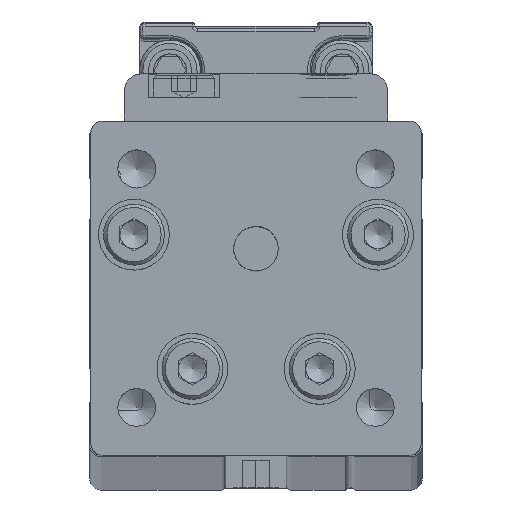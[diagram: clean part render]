
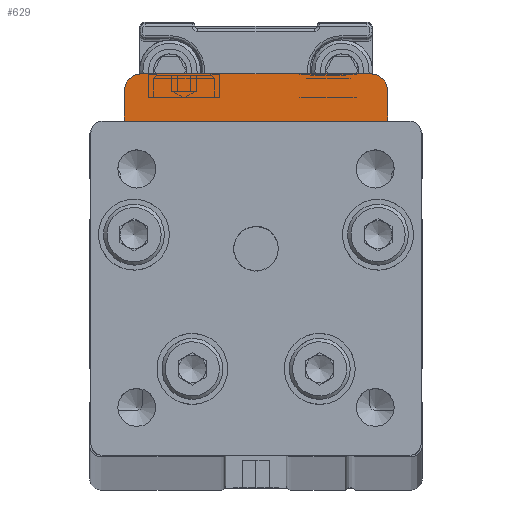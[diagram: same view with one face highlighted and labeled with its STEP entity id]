
A CAD part, top view. The second image highlights one B-rep face of the part: STEP entity #629.
In plain terms, the highlighted planar face has unit normal (0, 0, 1).
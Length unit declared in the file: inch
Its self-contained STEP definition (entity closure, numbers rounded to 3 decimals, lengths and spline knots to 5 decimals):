
#629 = ADVANCED_FACE ( 'NONE', ( #5536 ), #16672, .T. ) ;
#725 = CARTESIAN_POINT ( 'NONE',  ( 0.46752, 0.45295, 0.54126 ) ) ;
#764 = ORIENTED_EDGE ( 'NONE', *, *, #5808, .T. ) ;
#1127 = EDGE_CURVE ( 'NONE', #4530, #2495, #20693, .T. ) ;
#1385 = CARTESIAN_POINT ( 'NONE',  ( -0.46752, 0.45295, 0.54126 ) ) ;
#1896 = CARTESIAN_POINT ( 'NONE',  ( 0.46752, 0.45295, 0.54126 ) ) ;
#2011 = DIRECTION ( 'NONE',  ( 0., 0., 1. ) ) ;
#2109 = DIRECTION ( 'NONE',  ( 1., 0., 0. ) ) ;
#2378 = EDGE_CURVE ( 'NONE', #20728, #14455, #15058, .T. ) ;
#2495 = VERTEX_POINT ( 'NONE', #9032 ) ;
#2950 = VECTOR ( 'NONE', #3839, 39.37008 ) ;
#3043 = DIRECTION ( 'NONE',  ( 1., 0., 0. ) ) ;
#3360 = DIRECTION ( 'NONE',  ( 1., 0., 0. ) ) ;
#3839 = DIRECTION ( 'NONE',  ( 0., 1., 0. ) ) ;
#4041 = CARTESIAN_POINT ( 'NONE',  ( -0.46752, 0.45295, 0.54126 ) ) ;
#4528 = CARTESIAN_POINT ( 'NONE',  ( -0.46752, 0.45295, 0.54126 ) ) ;
#4530 = VERTEX_POINT ( 'NONE', #15914 ) ;
#4584 = EDGE_LOOP ( 'NONE', ( #18401, #13084, #8478, #14811, #10271, #764 ) ) ;
#4640 = DIRECTION ( 'NONE',  ( 1., 0., 0. ) ) ;
#4934 = CIRCLE ( 'NONE', #13468, 0.05906 ) ;
#5403 = EDGE_CURVE ( 'NONE', #13273, #6706, #21011, .T. ) ;
#5446 = EDGE_CURVE ( 'NONE', #13273, #2495, #5912, .T. ) ;
#5536 = FACE_OUTER_BOUND ( 'NONE', #4584, .T. ) ;
#5808 = EDGE_CURVE ( 'NONE', #4530, #20728, #9176, .T. ) ;
#5912 = CIRCLE ( 'NONE', #7253, 0.05906 ) ;
#6706 = VERTEX_POINT ( 'NONE', #7306 ) ;
#7114 = AXIS2_PLACEMENT_3D ( 'NONE', #4041, #2011, #2109 ) ;
#7253 = AXIS2_PLACEMENT_3D ( 'NONE', #11454, #14581, #3360 ) ;
#7306 = CARTESIAN_POINT ( 'NONE',  ( 0.40846, 0.62028, 0.54126 ) ) ;
#7881 = DIRECTION ( 'NONE',  ( 1., 0., 0. ) ) ;
#8478 = ORIENTED_EDGE ( 'NONE', *, *, #5403, .F. ) ;
#9032 = CARTESIAN_POINT ( 'NONE',  ( -0.46752, 0.56122, 0.54126 ) ) ;
#9176 = LINE ( 'NONE', #1385, #13762 ) ;
#9434 = DIRECTION ( 'NONE',  ( 0., 1., 0. ) ) ;
#9683 = CARTESIAN_POINT ( 'NONE',  ( -0.40846, 0.62028, 0.54126 ) ) ;
#10271 = ORIENTED_EDGE ( 'NONE', *, *, #1127, .F. ) ;
#11135 = CARTESIAN_POINT ( 'NONE',  ( -0.46752, 0.62028, 0.54126 ) ) ;
#11454 = CARTESIAN_POINT ( 'NONE',  ( -0.40846, 0.56122, 0.54126 ) ) ;
#12741 = VECTOR ( 'NONE', #9434, 39.37008 ) ;
#13084 = ORIENTED_EDGE ( 'NONE', *, *, #14338, .T. ) ;
#13273 = VERTEX_POINT ( 'NONE', #9683 ) ;
#13468 = AXIS2_PLACEMENT_3D ( 'NONE', #20908, #19294, #4640 ) ;
#13762 = VECTOR ( 'NONE', #7881, 39.37008 ) ;
#14338 = EDGE_CURVE ( 'NONE', #14455, #6706, #4934, .T. ) ;
#14447 = VECTOR ( 'NONE', #3043, 39.37008 ) ;
#14455 = VERTEX_POINT ( 'NONE', #19561 ) ;
#14581 = DIRECTION ( 'NONE',  ( 0., 0., 1. ) ) ;
#14811 = ORIENTED_EDGE ( 'NONE', *, *, #5446, .T. ) ;
#15058 = LINE ( 'NONE', #725, #2950 ) ;
#15914 = CARTESIAN_POINT ( 'NONE',  ( -0.46752, 0.45295, 0.54126 ) ) ;
#16672 = PLANE ( 'NONE',  #7114 ) ;
#18401 = ORIENTED_EDGE ( 'NONE', *, *, #2378, .T. ) ;
#19294 = DIRECTION ( 'NONE',  ( 0., 0., 1. ) ) ;
#19561 = CARTESIAN_POINT ( 'NONE',  ( 0.46752, 0.56122, 0.54126 ) ) ;
#20693 = LINE ( 'NONE', #4528, #12741 ) ;
#20728 = VERTEX_POINT ( 'NONE', #1896 ) ;
#20908 = CARTESIAN_POINT ( 'NONE',  ( 0.40846, 0.56122, 0.54126 ) ) ;
#21011 = LINE ( 'NONE', #11135, #14447 ) ;
